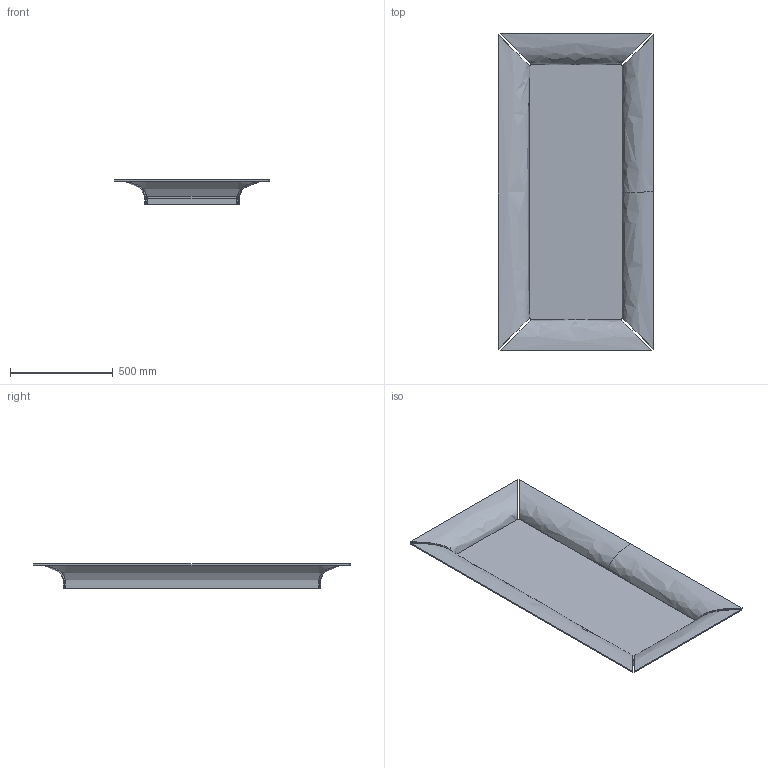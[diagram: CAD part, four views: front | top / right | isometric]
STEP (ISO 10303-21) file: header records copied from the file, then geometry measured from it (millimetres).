
FILE_DESCRIPTION(/* description */ (''),/* implementation_level */ '2;1');
FILE_NAME(/* name */ 'Caadre - 76x155',/* time_stamp */ '2010-11-02T14:02:22+01:00',/* author */ (''),/* organization */ (''),/* preprocessor_version */ 'ST-DEVELOPER v10',/* originating_system */ '',/* authorisation */ '');
FILE_SCHEMA (('CONFIG_CONTROL_DESIGN'));
Length unit declared in the file: centimetre
Products named in the file (1): 1
Bounding box: 756 x 1546 x 119 mm (x, y, z)
Volume: 11310172.8 mm3; surface area: 3267361.4 mm2
Topology: 6 solids, 6 shells, 62 faces, 140 edges, 88 vertices
Faces by surface type: bspline 44, plane 18
Entity records: 3488 total; most frequent: CARTESIAN_POINT 2454, ORIENTED_EDGE 280, EDGE_CURVE 140, B_SPLINE_CURVE_WITH_KNOTS 140, VERTEX_POINT 88, ADVANCED_FACE 62, FACE_OUTER_BOUND 62, EDGE_LOOP 62
